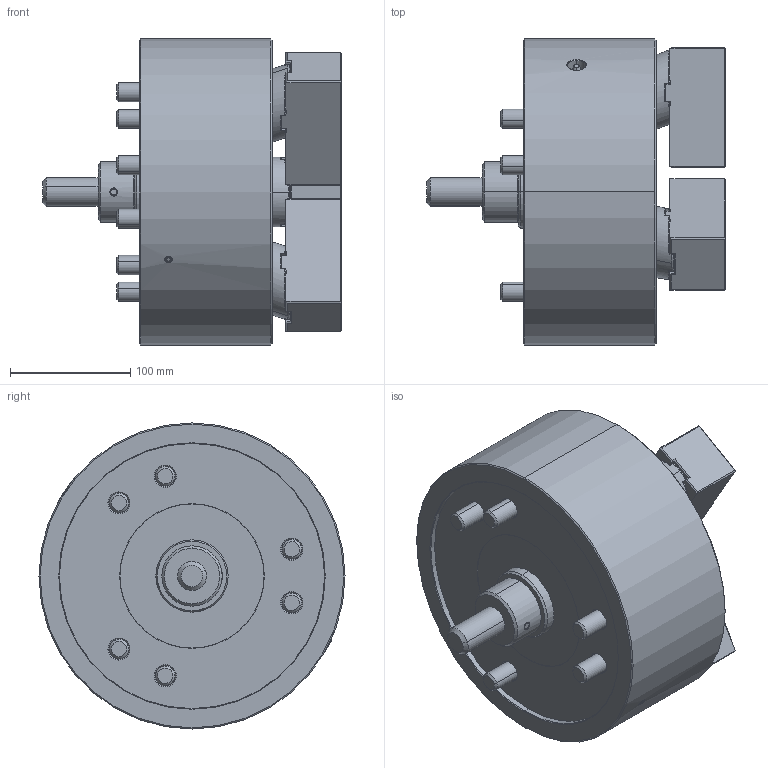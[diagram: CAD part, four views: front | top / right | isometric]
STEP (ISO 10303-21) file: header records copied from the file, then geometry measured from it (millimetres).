
FILE_DESCRIPTION (( 'STEP AP214' ), '1' );
FILE_NAME ('LU-10_CL.STEP', '2019-11-08T02:47:50', ( '' ), ( '' ), 'SwSTEP 2.0', 'SolidWorks 2017', '' );
FILE_SCHEMA (( 'AUTOMOTIVE_DESIGN' ));
Length unit declared in the file: millimetre
Products named in the file (4): 結合; 0030114030; 61P343367; LU-10_CL
Assembly tree (10 placements, depth 2):
  LU-10_CL
    61P343367  x3
    0030114030  x6
    結合
Bounding box: 248 x 254 x 254 mm (x, y, z)
Volume: 6110566.4 mm3; surface area: 423379.9 mm2
Topology: 10 solids, 11 shells, 1414 faces, 3450 edges, 2110 vertices
Faces by surface type: plane 798, cone 267, cylinder 201, bspline 116, torus 32
Entity records: 38729 total; most frequent: CARTESIAN_POINT 13651, ORIENTED_EDGE 5396, DIRECTION 4717, EDGE_CURVE 2698, VERTEX_POINT 1699, LINE 1623, VECTOR 1623, AXIS2_PLACEMENT_3D 1547
